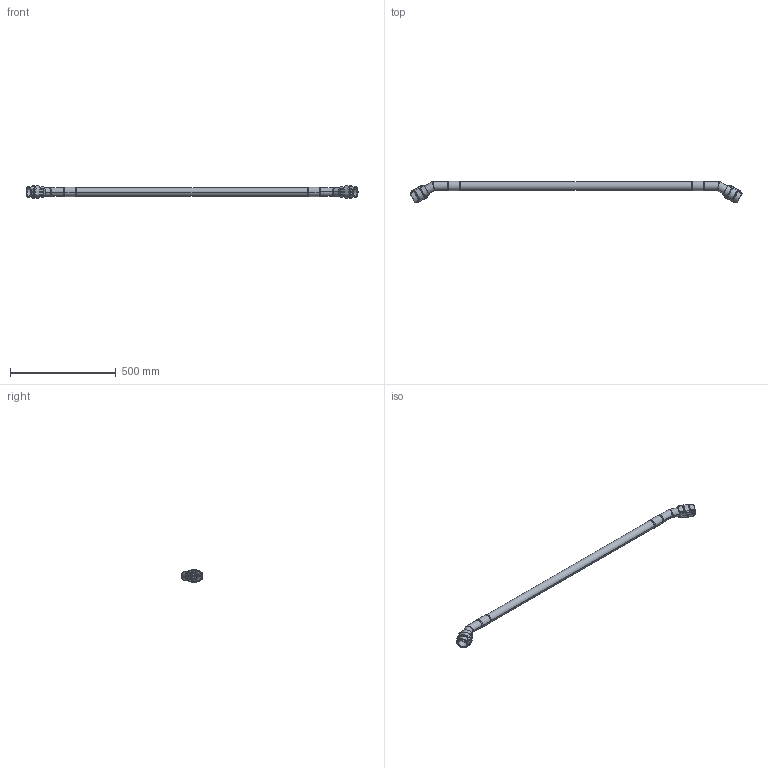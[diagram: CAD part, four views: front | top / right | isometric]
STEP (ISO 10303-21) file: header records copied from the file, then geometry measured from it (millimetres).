
FILE_DESCRIPTION((''),'2;1');
FILE_NAME('2015415599_ASM','2017-05-16T',('Administrator'),(''),'PRO/ENGINEER BY PARAMETRIC TECHNOLOGY CORPORATION, 2009360','PRO/ENGINEER BY PARAMETRIC TECHNOLOGY CORPORATION, 2009360','');
FILE_SCHEMA(('AUTOMOTIVE_DESIGN_CC2 { 1 2 10303 214 -1 1 5 2 }'));
Length unit declared in the file: millimetre
Products named in the file (5): 2015415500; 201540020001; 201540020000; 2015400200_ASM; 2015415599_ASM
Assembly tree (5 placements, depth 3):
  2015415599_ASM
    2015415500
    2015400200_ASM  x2
      201540020001
      201540020000
Bounding box: 1573.21 x 101.71 x 59.9 mm (x, y, z)
Volume: 499957.5 mm3; surface area: 431370.8 mm2
Topology: 5 solids, 5 shells, 470 faces, 1174 edges, 714 vertices
Faces by surface type: cylinder 204, torus 104, plane 74, bspline 64, sphere 16, cone 8
Entity records: 11744 total; most frequent: CARTESIAN_POINT 3817, ORIENTED_EDGE 1266, DIRECTION 1226, PRESENTATION_STYLE_ASSIGNMENT 636, STYLED_ITEM 636, CURVE_STYLE 633, EDGE_CURVE 633, AXIS2_PLACEMENT_3D 515
